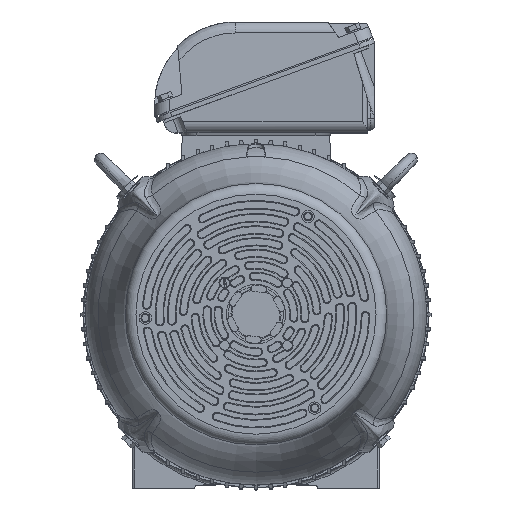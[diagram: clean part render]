
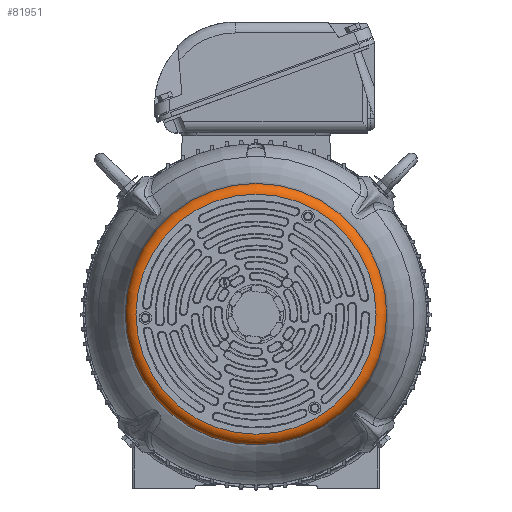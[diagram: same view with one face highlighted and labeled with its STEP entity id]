
A CAD part, top view. The second image highlights one B-rep face of the part: STEP entity #81951.
In plain terms, the highlighted toroidal (fillet/blend) face has major radius 156 mm and minor radius 14 mm.
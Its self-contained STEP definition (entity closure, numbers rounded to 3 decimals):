
#5097=TOROIDAL_SURFACE('',#88688,156.,14.);
#10295=FACE_OUTER_BOUND('',#15068,.T.);
#15068=EDGE_LOOP('',(#64535,#64536,#64537,#64538,#64539,#64540));
#19463=CIRCLE('',#88417,156.);
#19464=CIRCLE('',#88418,156.);
#19638=CIRCLE('',#88686,170.);
#19639=CIRCLE('',#88687,170.);
#19640=CIRCLE('',#88689,14.);
#35559=VERTEX_POINT('',#172044);
#35560=VERTEX_POINT('',#172045);
#35649=VERTEX_POINT('',#172647);
#35650=VERTEX_POINT('',#172649);
#45697=EDGE_CURVE('',#35559,#35560,#19463,.T.);
#45698=EDGE_CURVE('',#35560,#35559,#19464,.T.);
#45947=EDGE_CURVE('',#35649,#35650,#19638,.T.);
#45948=EDGE_CURVE('',#35650,#35649,#19639,.T.);
#45949=EDGE_CURVE('',#35649,#35560,#19640,.T.);
#64535=ORIENTED_EDGE('',*,*,#45948,.F.);
#64536=ORIENTED_EDGE('',*,*,#45947,.F.);
#64537=ORIENTED_EDGE('',*,*,#45949,.T.);
#64538=ORIENTED_EDGE('',*,*,#45698,.T.);
#64539=ORIENTED_EDGE('',*,*,#45697,.T.);
#64540=ORIENTED_EDGE('',*,*,#45949,.F.);
#81951=ADVANCED_FACE('',(#10295),#5097,.T.);
#88417=AXIS2_PLACEMENT_3D('',#172046,#103585,#103586);
#88418=AXIS2_PLACEMENT_3D('',#172047,#103587,#103588);
#88686=AXIS2_PLACEMENT_3D('',#172650,#104176,#104177);
#88687=AXIS2_PLACEMENT_3D('',#172651,#104178,#104179);
#88688=AXIS2_PLACEMENT_3D('',#172652,#104180,#104181);
#88689=AXIS2_PLACEMENT_3D('',#172653,#104182,#104183);
#103585=DIRECTION('center_axis',(0.,0.,
-1.));
#103586=DIRECTION('ref_axis',(0.,1.,0.));
#103587=DIRECTION('center_axis',(0.,0.,
-1.));
#103588=DIRECTION('ref_axis',(0.,1.,0.));
#104176=DIRECTION('center_axis',(0.,0.,
-1.));
#104177=DIRECTION('ref_axis',(0.,1.,0.));
#104178=DIRECTION('center_axis',(0.,0.,
-1.));
#104179=DIRECTION('ref_axis',(0.,1.,0.));
#104180=DIRECTION('center_axis',(0.,0.,
-1.));
#104181=DIRECTION('ref_axis',(0.,1.,0.));
#104182=DIRECTION('center_axis',(-1.,0.,0.));
#104183=DIRECTION('ref_axis',(0.,-1.,0.));
#172044=CARTESIAN_POINT('',(0.,156.,896.764));
#172045=CARTESIAN_POINT('',(0.,-156.,896.764));
#172046=CARTESIAN_POINT('Origin',(0.,0.,
896.764));
#172047=CARTESIAN_POINT('Origin',(0.,0.,
896.764));
#172647=CARTESIAN_POINT('',(0.,-170.,882.764));
#172649=CARTESIAN_POINT('',(0.,170.,882.764));
#172650=CARTESIAN_POINT('Origin',(0.,0.,
882.764));
#172651=CARTESIAN_POINT('Origin',(0.,0.,
882.764));
#172652=CARTESIAN_POINT('Origin',(0.,0.,
882.764));
#172653=CARTESIAN_POINT('Origin',(0.,-156.,
882.764));
